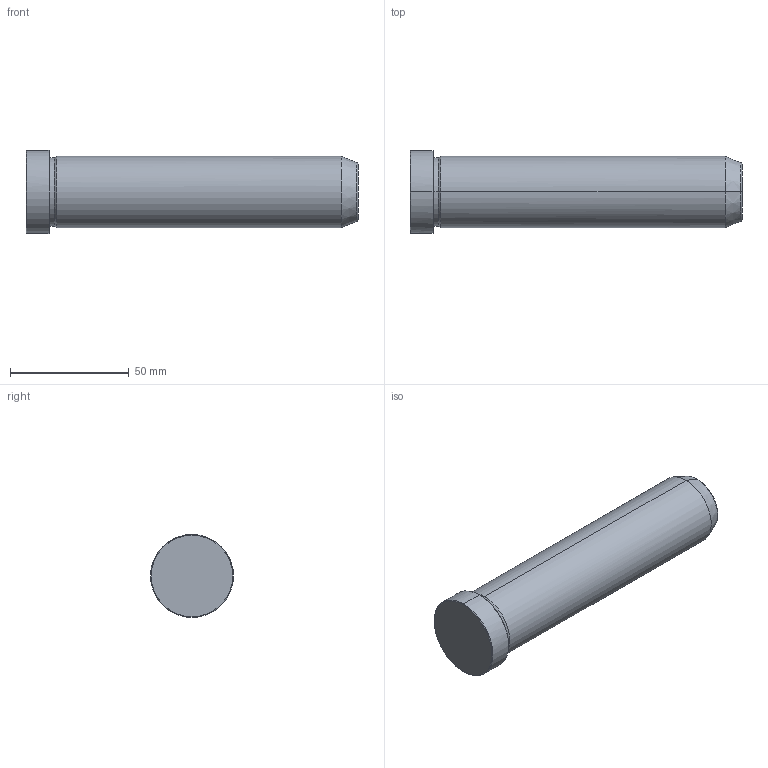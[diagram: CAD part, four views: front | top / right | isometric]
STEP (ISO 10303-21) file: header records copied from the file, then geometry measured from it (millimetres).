
FILE_DESCRIPTION(('CATIA V5 STEP Exchange'),'2;1');
FILE_NAME('C:\Users\Utente\Desktop\IO LAVORO\3D X SITO CF\X SITO\PLASTICA\549\549-30X140.stp','2021-12-17T14:45:34+00:00',('none'),('none'),'CATIA Version 5 Release 20 GA (IN-10)','CATIA V5 STEP AP203','none');
FILE_SCHEMA(('CONFIG_CONTROL_DESIGN'));
Length unit declared in the file: millimetre
Products named in the file (1): 549-30X140
Bounding box: 140 x 35 x 35 mm (x, y, z)
Volume: 100509.6 mm3; surface area: 15018.9 mm2
Topology: 1 solids, 1 shells, 19 faces, 56 edges, 40 vertices
Faces by surface type: cone 8, cylinder 6, plane 3, torus 2
Entity records: 736 total; most frequent: CARTESIAN_POINT 192, ORIENTED_EDGE 112, DIRECTION 86, EDGE_CURVE 56, AXIS2_PLACEMENT_3D 54, VERTEX_POINT 40, CIRCLE 34, EDGE_LOOP 20
